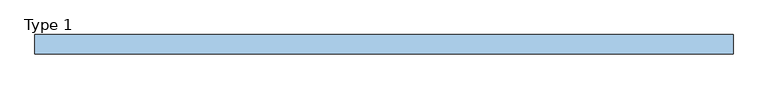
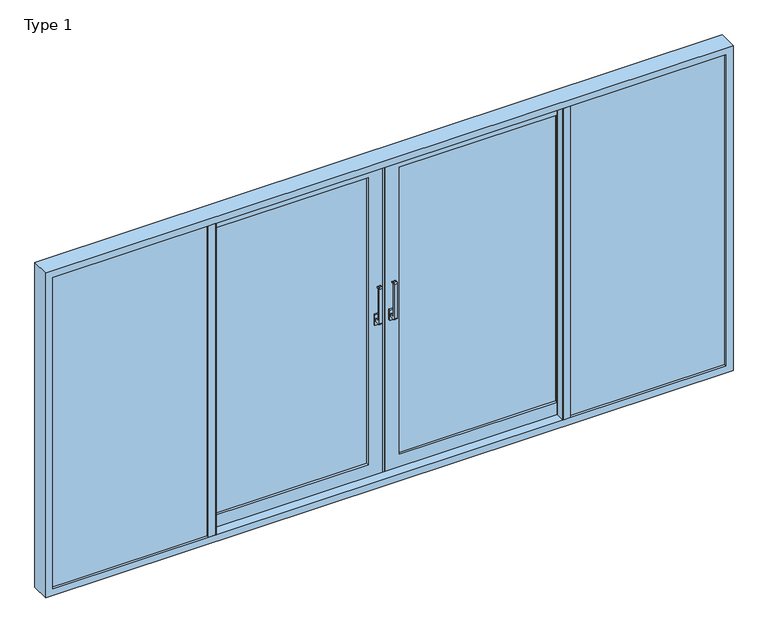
"""IFC4 building model written with IfcOpenShell, lengths in millimetres: window geometry, ETEM_E50_Quadruple_Lift_Sliding_HT_NI : Type 1."""

from ifc_helpers import new_model, si_unit, point, frame, frame_2d, origin, place, context, project, spatial, polyline, circle_curve, trimmed, segment, composite_curve, outline, extrude, faceted_brep, source, transform, mapped, element, save


def type_1_2eeac2a6(model_context):
    return source(origin(), model_context, "Body", "SolidModel", [
        extrude(outline(composite_curve([segment(polyline([(36.4, 1090.0), (4.8263152, 1090.0)]), True, "CONTINUOUS"), segment(trimmed(circle_curve(frame_2d((4.8263152, 1098.4263152)), 8.4263152), [point((4.8263152, 1090.0))], [point((-3.6, 1098.4263152))], False, "CARTESIAN"), True, "CONTINUOUS"), segment(polyline([(-3.6, 1098.4263152), (-3.6, 1331.5736848)]), True, "CONTINUOUS"), segment(trimmed(circle_curve(frame_2d((4.8263152, 1331.5736848)), 8.4263152), [point((-3.6, 1331.5736848))], [point((4.8263152, 1340.0))], False, "CARTESIAN"), True, "CONTINUOUS"), segment(polyline([(4.8263152, 1340.0), (16.4, 1340.0)]), True, "CONTINUOUS"), segment(trimmed(circle_curve(frame_2d((16.4, 1335.0)), 5.0), [point((16.4, 1340.0))], [point((16.4, 1330.0))], False, "CARTESIAN"), True, "CONTINUOUS"), segment(polyline([(16.4, 1330.0), (9.9355339, 1330.0)]), True, "CONTINUOUS"), segment(trimmed(circle_curve(frame_2d((9.9355339, 1326.4644661)), 3.5355339), [point((9.9355339, 1330.0))], [point((6.4, 1326.4644661))], True, "CARTESIAN"), True, "CONTINUOUS"), segment(polyline([(6.4, 1326.4644661), (6.4, 1113.5355339)]), True, "CONTINUOUS"), segment(trimmed(circle_curve(frame_2d((9.9355339, 1113.5355339)), 3.5355339), [point((6.4, 1113.5355339))], [point((9.9355339, 1110.0))], True, "CARTESIAN"), True, "CONTINUOUS"), segment(polyline([(9.9355339, 1110.0), (36.4, 1110.0), (36.4, 1090.0)]), True, "CONTINUOUS")], self_intersect=False)), frame((-57.5, 0.0, 0.0), z_axis=(1.0, 0.0, 0.0), x_axis=(0.0, 1.0, 0.0)), (0.0, 0.0, 1.0), 20.0),
        extrude(outline(polyline([(-62.5, 36.4), (-62.5, 49.4), (-32.5, 49.4), (-32.5, 36.4), (-62.5, 36.4)])), frame((0.0, 0.0, 1065.0), z_axis=(0.0, 0.0, 1.0), x_axis=(1.0, 0.0, 0.0)), (0.0, 0.0, 1.0), 70.0),
        extrude(outline(composite_curve([segment(polyline([(36.4, 1090.0), (4.8263152, 1090.0)]), True, "CONTINUOUS"), segment(trimmed(circle_curve(frame_2d((4.8263152, 1098.4263152)), 8.4263152), [point((4.8263152, 1090.0))], [point((-3.6, 1098.4263152))], False, "CARTESIAN"), True, "CONTINUOUS"), segment(polyline([(-3.6, 1098.4263152), (-3.6, 1331.5736848)]), True, "CONTINUOUS"), segment(trimmed(circle_curve(frame_2d((4.8263152, 1331.5736848)), 8.4263152), [point((-3.6, 1331.5736848))], [point((4.8263152, 1340.0))], False, "CARTESIAN"), True, "CONTINUOUS"), segment(polyline([(4.8263152, 1340.0), (16.4, 1340.0)]), True, "CONTINUOUS"), segment(trimmed(circle_curve(frame_2d((16.4, 1335.0)), 5.0), [point((16.4, 1340.0))], [point((16.4, 1330.0))], False, "CARTESIAN"), True, "CONTINUOUS"), segment(polyline([(16.4, 1330.0), (9.9355339, 1330.0)]), True, "CONTINUOUS"), segment(trimmed(circle_curve(frame_2d((9.9355339, 1326.4644661)), 3.5355339), [point((9.9355339, 1330.0))], [point((6.4, 1326.4644661))], True, "CARTESIAN"), True, "CONTINUOUS"), segment(polyline([(6.4, 1326.4644661), (6.4, 1113.5355339)]), True, "CONTINUOUS"), segment(trimmed(circle_curve(frame_2d((9.9355339, 1113.5355339)), 3.5355339), [point((6.4, 1113.5355339))], [point((9.9355339, 1110.0))], True, "CARTESIAN"), True, "CONTINUOUS"), segment(polyline([(9.9355339, 1110.0), (36.4, 1110.0), (36.4, 1090.0)]), True, "CONTINUOUS")], self_intersect=False)), frame((37.5, 0.0, 0.0), z_axis=(1.0, 0.0, 0.0), x_axis=(0.0, 1.0, 0.0)), (0.0, 0.0, 1.0), 20.0),
        extrude(outline(polyline([(62.5, 36.4), (32.5, 36.4), (32.5, 49.4), (62.5, 49.4), (62.5, 36.4)])), frame((0.0, 0.0, 1065.0), z_axis=(0.0, 0.0, 1.0), x_axis=(1.0, 0.0, 0.0)), (0.0, 0.0, 1.0), 70.0),
        faceted_brep([(1109.5, 49.4, 127.5), (1109.5, 49.4, 36.0), (1109.5, 54.1, 36.0), (1109.5, 54.1, 65.2), (1109.5, 94.7, 65.2), (1109.5, 94.7, 36.0), (1109.5, 99.4, 36.0), (1109.5, 99.4, 127.5), (98.5, 49.4, 127.5), (98.5, 49.4, 2072.5), (1109.5, 49.4, 2072.5), (1109.5, 49.4, 2164.0), (7.0, 49.4, 2164.0), (7.0, 49.4, 36.0), (7.0, 54.1, 36.0), (7.0, 54.1, 2164.0), (1109.5, 54.1, 2164.0), (1109.5, 54.1, 2134.8), (36.2, 54.1, 2134.8), (36.2, 54.1, 65.2), (36.2, 94.7, 65.2), (36.2, 94.7, 2134.8), (1109.5, 94.7, 2134.8), (1109.5, 94.7, 2164.0), (7.0, 94.7, 2164.0), (7.0, 94.7, 36.0), (7.0, 99.4, 36.0), (7.0, 99.4, 2164.0), (1109.5, 99.4, 2164.0), (1109.5, 99.4, 2072.5), (98.5, 99.4, 2072.5), (98.5, 99.4, 127.5)], [[[0, 1, 2, 3, 4, 5, 6, 7]], [[1, 0, 8, 9, 10, 11, 12, 13]], [[2, 1, 13, 14]], [[3, 2, 14, 15, 16, 17, 18, 19]], [[4, 3, 19, 20]], [[5, 4, 20, 21, 22, 23, 24, 25]], [[6, 5, 25, 26]], [[7, 6, 26, 27, 28, 29, 30, 31]], [[0, 7, 31, 8]], [[8, 31, 30, 9]], [[14, 13, 12, 15]], [[20, 19, 18, 21]], [[26, 25, 24, 27]], [[10, 29, 28, 23, 22, 17, 16, 11]], [[15, 12, 11, 16]], [[21, 18, 17, 22]], [[27, 24, 23, 28]], [[9, 30, 29, 10]]]),
        extrude(outline(polyline([(1158.5, 43.4684907), (1154.0, 43.4684907), (1154.0, 99.4), (1158.5, 99.4), (1158.5, 43.4684907)])), frame((0.0, 0.0, 35.8), z_axis=(0.0, 0.0, 1.0), x_axis=(1.0, 0.0, 0.0)), (0.0, 0.0, 1.0), 2128.2),
        extrude(outline(polyline([(1109.5, 40.3315093), (1114.0, 40.3315093), (1114.0, -15.6), (1109.5, -15.6), (1109.5, 40.3315093)])), frame((0.0, 0.0, 46.0), z_axis=(0.0, 0.0, 1.0), x_axis=(1.0, 0.0, 0.0)), (0.0, 0.0, 1.0), 2108.0),
        extrude(outline(polyline([(98.5, 91.3998896), (1109.5, 91.3998896), (1109.5, 86.3998789), (98.5, 86.3998789), (98.5, 91.3998896)])), frame((0.0, 0.0, 127.5), z_axis=(0.0, 0.0, 1.0), x_axis=(1.0, 0.0, 0.0)), (0.0, 0.0, 1.0), 1945.0),
        extrude(outline(polyline([(1158.5, 26.4), (2154.0, 26.4), (2154.0, 21.4), (1158.5, 21.4), (1158.5, 26.4)])), frame((0.0, 0.0, 46.0), z_axis=(0.0, 0.0, 1.0), x_axis=(1.0, 0.0, 0.0)), (0.0, 0.0, 1.0), 2108.0),
        extrude(outline(polyline([(1114.0, -15.6), (1114.0, 34.4), (1158.5, 34.4), (1158.5, -15.6), (1114.0, -15.6)])), frame((0.0, 0.0, 46.0), z_axis=(0.0, 0.0, 1.0), x_axis=(1.0, 0.0, 0.0)), (0.0, 0.0, 1.0), 2108.0),
        extrude(outline(polyline([(98.5, 70.4000107), (1109.5, 70.4000107), (1109.5, 65.4), (98.5, 65.4), (98.5, 70.4000107)])), frame((0.0, 0.0, 127.5), z_axis=(0.0, 0.0, 1.0), x_axis=(1.0, 0.0, 0.0)), (0.0, 0.0, 1.0), 1945.0),
        extrude(outline(polyline([(1158.5, 5.4), (2154.0, 5.4), (2154.0, 0.4), (1158.5, 0.4), (1158.5, 5.4)])), frame((0.0, 0.0, 46.0), z_axis=(0.0, 0.0, 1.0), x_axis=(1.0, 0.0, 0.0)), (0.0, 0.0, 1.0), 2108.0),
        faceted_brep([(-1109.5, 49.4, 127.5), (-1109.5, 99.4, 127.5), (-1109.5, 99.4, 36.0), (-1109.5, 94.7, 36.0), (-1109.5, 94.7, 67.1), (-1109.5, 54.1, 67.1), (-1109.5, 54.1, 36.0), (-1109.5, 49.4, 36.0), (-1109.5, 49.4, 2072.5), (-1109.5, 49.4, 2164.0), (-1109.5, 54.1, 2164.0), (-1109.5, 54.1, 2132.9), (-1109.5, 94.7, 2132.9), (-1109.5, 94.7, 2164.0), (-1109.5, 99.4, 2164.0), (-1109.5, 99.4, 2072.5), (-98.5, 49.4, 127.5), (-98.5, 99.4, 127.5), (-7.0, 99.4, 2164.0), (-7.0, 99.4, 36.0), (-98.5, 99.4, 2072.5), (-7.0, 94.7, 36.0), (-38.1, 94.7, 2132.9), (-38.1, 94.7, 67.1), (-7.0, 94.7, 2164.0), (-38.1, 54.1, 67.1), (-7.0, 54.1, 2164.0), (-7.0, 54.1, 36.0), (-38.1, 54.1, 2132.9), (-7.0, 49.4, 36.0), (-98.5, 49.4, 2072.5), (-7.0, 49.4, 2164.0)], [[[0, 1, 2, 3, 4, 5, 6, 7]], [[8, 9, 10, 11, 12, 13, 14, 15]], [[16, 17, 1, 0]], [[15, 14, 18, 19, 2, 1, 17, 20]], [[19, 21, 3, 2]], [[13, 12, 22, 23, 4, 3, 21, 24]], [[23, 25, 5, 4]], [[11, 10, 26, 27, 6, 5, 25, 28]], [[27, 29, 7, 6]], [[9, 8, 30, 16, 0, 7, 29, 31]], [[30, 20, 17, 16]], [[26, 31, 29, 27]], [[22, 28, 25, 23]], [[18, 24, 21, 19]], [[10, 9, 31, 26]], [[12, 11, 28, 22]], [[14, 13, 24, 18]], [[8, 15, 20, 30]]]),
        extrude(outline(polyline([(-1109.5, 91.4), (-98.5, 91.4), (-98.5, 86.4), (-1109.5, 86.4), (-1109.5, 91.4)])), frame((0.0, 0.0, 127.5), z_axis=(0.0, 0.0, 1.0), x_axis=(1.0, 0.0, 0.0)), (0.0, 0.0, 1.0), 1945.0),
        extrude(outline(polyline([(-1109.5, 70.4), (-98.5, 70.4), (-98.5, 65.4), (-1109.5, 65.4), (-1109.5, 70.4)])), frame((0.0, 0.0, 127.5), z_axis=(0.0, 0.0, 1.0), x_axis=(1.0, 0.0, 0.0)), (0.0, 0.0, 1.0), 1945.0),
        extrude(outline(polyline([(-1114.0, -15.6), (-1158.5, -15.6), (-1158.5, 34.4), (-1114.0, 34.4), (-1114.0, -15.6)])), frame((0.0, 0.0, 46.0), z_axis=(0.0, 0.0, 1.0), x_axis=(1.0, 0.0, 0.0)), (0.0, 0.0, 1.0), 2108.0),
        extrude(outline(polyline([(-1109.5, 40.3315093), (-1109.5, -15.6), (-1114.0, -15.6), (-1114.0, 40.3315093), (-1109.5, 40.3315093)])), frame((0.0, 0.0, 46.0), z_axis=(0.0, 0.0, 1.0), x_axis=(1.0, 0.0, 0.0)), (0.0, 0.0, 1.0), 2108.0),
        extrude(outline(polyline([(-1158.5, 43.4684907), (-1158.5, 99.4), (-1154.0, 99.4), (-1154.0, 43.4684907), (-1158.5, 43.4684907)])), frame((0.0, 0.0, 36.0), z_axis=(0.0, 0.0, 1.0), x_axis=(1.0, 0.0, 0.0)), (0.0, 0.0, 1.0), 2128.0),
        extrude(outline(polyline([(-2154.0, 26.4), (-1158.5, 26.4), (-1158.5, 21.4), (-2154.0, 21.4), (-2154.0, 26.4)])), frame((0.0, 0.0, 46.0), z_axis=(0.0, 0.0, 1.0), x_axis=(1.0, 0.0, 0.0)), (0.0, 0.0, 1.0), 2108.0),
        extrude(outline(polyline([(-2154.0, 5.4), (-1158.5, 5.4), (-1158.5, 0.4), (-2154.0, 0.4), (-2154.0, 5.4)])), frame((0.0, 0.0, 46.0), z_axis=(0.0, 0.0, 1.0), x_axis=(1.0, 0.0, 0.0)), (0.0, 0.0, 1.0), 2108.0),
        extrude(outline(polyline([(3.5, 58.4), (3.5, 49.4), (-7.0, 49.4), (-7.0, 99.4), (3.5, 99.4), (3.5, 90.4), (16.0497482, 90.4), (16.0497482, 58.4), (3.5, 58.4)])), frame((0.0, 0.0, 36.0), z_axis=(0.0, 0.0, 1.0), x_axis=(1.0, 0.0, 0.0)), (0.0, 0.0, 1.0), 2128.0),
        extrude(outline(polyline([(1154.0, 49.4), (1109.5, 49.4), (1109.5, 99.4), (1154.0, 99.4), (1154.0, 49.4)])), frame((0.0, 0.0, 36.0), z_axis=(0.0, 0.0, 1.0), x_axis=(1.0, 0.0, 0.0)), (0.0, 0.0, 1.0), 2128.0),
        extrude(outline(polyline([(-1109.5, 49.4), (-1154.0, 49.4), (-1154.0, 99.4), (-1109.5, 99.4), (-1109.5, 49.4)])), frame((0.0, 0.0, 36.0), z_axis=(0.0, 0.0, 1.0), x_axis=(1.0, 0.0, 0.0)), (0.0, 0.0, 1.0), 2128.0),
        faceted_brep([(2200.0, 105.0, 2200.0), (2200.0, -15.6, 2200.0), (2200.0, -15.6, 0.0), (2200.0, 105.0, 0.0), (-2200.0, -15.6, 2200.0), (-2200.0, -15.6, 0.0), (2154.0, -15.6, 2154.0), (2154.0, -15.6, 46.0), (-2154.0, -15.6, 46.0), (-2154.0, -15.6, 2154.0), (-2200.0, 105.0, 0.0), (-2200.0, 105.0, 2200.0), (2155.0, 105.0, 45.0), (2155.0, 105.0, 2155.0), (-2155.0, 105.0, 2155.0), (-2155.0, 105.0, 45.0), (2155.0, 101.4, 2155.0), (2155.0, 101.4, 45.0), (-2155.0, 101.4, 45.0), (2181.7, 101.4, 18.3), (2181.7, 101.4, 2181.7), (-2181.7, 101.4, 2181.7), (-2181.7, 101.4, 18.3), (-2155.0, 101.4, 2155.0), (2181.7, 78.9, 2181.7), (2181.7, 78.9, 18.3), (-2181.7, 78.9, 18.3), (-2181.7, 78.9, 2181.7), (2163.0, 78.9, 37.0), (2163.0, 78.9, 2163.0), (-2163.0, 78.9, 2163.0), (-2163.0, 78.9, 37.0), (2163.0, 90.4, 2163.0), (2163.0, 90.4, 37.0), (-2163.0, 90.4, 37.0), (-2163.0, 90.4, 2163.0), (2155.0, 90.4, 45.0), (2155.0, 90.4, 2155.0), (-2155.0, 90.4, 2155.0), (-2155.0, 90.4, 45.0), (2155.0, 58.4, 2155.0), (2155.0, 58.4, 45.0), (-2155.0, 58.4, 45.0), (2163.0, 58.4, 37.0), (2163.0, 58.4, 2163.0), (-2163.0, 58.4, 2163.0), (-2163.0, 58.4, 37.0), (-2155.0, 58.4, 2155.0), (2163.0, 69.9, 2163.0), (2163.0, 69.9, 37.0), (-2163.0, 69.9, 37.0), (2181.7, 69.9, 18.3), (2181.7, 69.9, 2181.7), (-2181.7, 69.9, 2181.7), (-2181.7, 69.9, 18.3), (-2163.0, 69.9, 2163.0), (2181.7, 34.4, 2181.7), (2181.7, 34.4, 18.3), (-2181.7, 34.4, 18.3), (-2181.7, 34.4, 2181.7), (2154.0, 34.4, 46.0), (2154.0, 34.4, 2154.0), (1114.0, 34.4, 2154.0), (1114.0, 34.4, 2164.2), (-1114.0, 34.4, 2164.2), (-1114.0, 34.4, 2154.0), (-2154.0, 34.4, 2154.0), (-2154.0, 34.4, 46.0), (-1114.0, 34.4, 46.0), (-1114.0, 34.4, 35.8), (1114.0, 34.4, 35.8), (1114.0, 34.4, 46.0), (1114.0, 45.4, 46.0), (-1114.0, 45.4, 46.0), (1114.0, 45.4, 35.8), (-1114.0, 45.4, 35.8), (-1114.0, 45.4, 2164.2), (-1114.0, 45.4, 2154.0), (1114.0, 45.4, 2154.0), (1114.0, 45.4, 2164.2)], [[[0, 1, 2, 3]], [[2, 1, 4, 5], [6, 7, 8, 9]], [[3, 2, 5, 10]], [[0, 3, 10, 11], [12, 13, 14, 15]], [[16, 13, 12, 17]], [[17, 12, 15, 18]], [[19, 20, 21, 22], [16, 17, 18, 23]], [[24, 20, 19, 25]], [[25, 19, 22, 26]], [[24, 25, 26, 27], [28, 29, 30, 31]], [[32, 29, 28, 33]], [[33, 28, 31, 34]], [[32, 33, 34, 35], [36, 37, 38, 39]], [[40, 37, 36, 41]], [[41, 36, 39, 42]], [[43, 44, 45, 46], [40, 41, 42, 47]], [[48, 44, 43, 49]], [[49, 43, 46, 50]], [[51, 52, 53, 54], [48, 49, 50, 55]], [[56, 52, 51, 57]], [[57, 51, 54, 58]], [[56, 57, 58, 59], [60, 61, 62, 63, 64, 65, 66, 67, 68, 69, 70, 71]], [[6, 61, 60, 7]], [[7, 60, 71, 72, 73, 68, 67, 8]], [[10, 5, 4, 11]], [[18, 15, 14, 23]], [[26, 22, 21, 27]], [[34, 31, 30, 35]], [[42, 39, 38, 47]], [[50, 46, 45, 55]], [[58, 54, 53, 59]], [[8, 67, 66, 9]], [[1, 0, 11, 4]], [[13, 16, 23, 14]], [[20, 24, 27, 21]], [[29, 32, 35, 30]], [[37, 40, 47, 38]], [[44, 48, 55, 45]], [[52, 56, 59, 53]], [[70, 74, 72, 71]], [[75, 73, 72, 74]], [[68, 73, 75, 69]], [[69, 75, 74, 70]], [[64, 76, 77, 65]], [[62, 78, 79, 63]], [[76, 64, 63, 79]], [[77, 76, 79, 78]], [[65, 77, 78, 62, 61, 6, 9, 66]]]),
    ])


if __name__ == "__main__":
    model = new_model("IFC4")
    model_context = context("Model", 3, world=origin())
    ifc_project = project(units=[si_unit("LENGTHUNIT", "METRE", prefix="MILLI")], contexts=[model_context])
    site = spatial("IfcSite", under=ifc_project)
    building = spatial("IfcBuilding", under=site)
    placement = place(None, origin())
    type_1_shape = type_1_2eeac2a6(model_context)
    element("IfcWindow", 1, ObjectType="ETEM_E50_Quadruple_Lift_Sliding_HT_NI : Type 1", at=placement, inside=building, context=model_context, shape_type="MappedRepresentation", body=[
        mapped(type_1_shape, transform((0.0, 0.0, 0.0), x_axis=(1.0, 0.0, 0.0), y_axis=(0.0, 1.0, 0.0), z_axis=(0.0, 0.0, 1.0))),
    ])
    save(model, "model.ifc")
